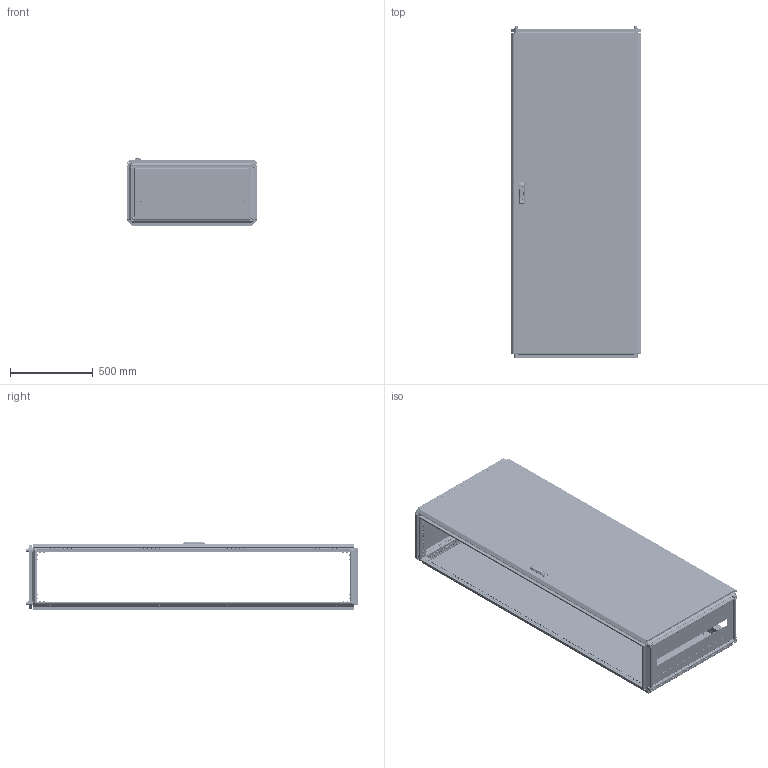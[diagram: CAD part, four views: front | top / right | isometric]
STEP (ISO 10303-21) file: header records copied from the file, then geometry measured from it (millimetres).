
FILE_DESCRIPTION (( 'STEP AP203' ), '1' );
FILE_NAME ('MA1.000.080420.10.00 AleSta2084 Øêàô AleSta 800õ400õ2000.STEP', '2024-08-23T08:27:40', ( '' ), ( '' ), 'SwSTEP 2.0', 'SolidWorks 2021', '' );
FILE_SCHEMA (( 'CONFIG_CONTROL_DESIGN' ));
Length unit declared in the file: millimetre
Products named in the file (50): MA1.000.080420.10.00 AleSta2084 Øêàô AleSta 800õ400õ2000; äåðæàòåëü_êðóãëîé_òÿãèRG002-RG1010-2-i-RG1010-3-.stp; MA1.101.060620.00.02 Ïðîôèëü ïîïåðå÷íûé ñâàðíîé_02 L=698 (˜=800) ; òÿãà_lg001-2.STEP_‚=2000; Âèíò ñàìîíàðåçàþùèé ñ ïîòàéíîé ãîëîâêîé Ì5x14 DIN 7500 M TORX, êëàññ ïðî÷íîñòè 8.8, îöèíêîâàííàÿ ñòàëü_Œ5å14; Ãàéêà ñàìîêîíòðÿùàÿñÿ ñ íåéëîíîâîé âñòàâêîé Ì6 DIN 985, êëàññ ïðî÷íîñòè 8, îöèíêîâàííàÿ ñòàëü_Œ6; Øïèëüêà Ì6õ12_˜¯¨«ìª  Œ6å12; Óïëîòíèòåëü ïàíåëè íèæíåé_ ‚=2000; Âèíò_ðåçüáîâûäàâëèâàþùèé_Ì5õ12_DIN 7500E_Œ5å12; Îñü ïåòëè 4õ52_‚¨­â A.M4x0,5x40 ƒŽ‘’ 11644-75; êðåïëåíèå_êðóãëîé_òÿãè_RG1020-1.stp; MA1.200.060620.10.00 AleSta-PR206  Ïàíåëü çàäíÿÿ, äëÿ øêàôîâ ALESTA, 2000 x 600_2000å800; Âèíò ñ âí. øåñòèãðàííèêîì M12 DIN912_•30; MA1.200.060620.31.00 Äâåðü ñïëîøíàÿ äëÿ øêàôîâ ALESTA ÂõØ 2000õ600_2000å800; MA1.200.060620.31.01 Ïîëîòíî äâåðè ñïëîøíîé 2000õ600_2000å800; Øïèëüêà Ì6õ12_˜¯¨«ìª  Œ6å20; MA1.200.060620.30.00 AleSta-D20M600 Äâåðü ñïëîøíàÿ äëÿ øêàôîâ ALESTA ÂõØ 2000õ600_2000å800; Øïèëüêà Ì6õ12_˜¯¨«ìª  Œ6å16; MA1.200.060620.11.00 Ïàíåëü çàäíÿÿ, äëÿ øêàôîâ AleSta, 2000x600_2000å800; MA1.200.060620.31.02 Ðåéêà íà äâåðü âåðòèêàëüíàÿ Â = 2000_‚ =2000; MA1.102.060620.00.01 Ïðîôèëü âåðòèêàëüíûé ñâàðíîé_04 L=1898 (‚=2000); Øàéáà ñòîïîðíàÿ ñ íàðóæíûìè çóáöàìè SCHNORR, òèï VS öèíêîâûå õëîïüÿ Ì6 O6,4 ART 88121_Œ6; MA1.101.060620.00.00 AleSta-RB66 Êîìïëåêò êðûøà è îñíîâàíèå_800å400; Âèíò_ðåçüáîâûäàâëèâàþùèé_Ì5õ12_DIN 7500E_00; Ïåòëÿ íà äâåðü ï-îáðàçíàÿ; MA1.101.060620.10.00 Êðûøà 600x600_800å400; MA1.200.060620.11.01 Ïîëîòíî çàäíåé ïàíåëè 2000õ600_2000å800; MA1.101.060620.10.01 Ïîëîòíî êðûøè 600õ600_800x400; 7380-2 ISO Âèíòû ñ ïîëóêðóãëîé ãîëîâêîé ñ ôëàíöåì ñ âíóòðåííèì øåñòèãðàííèêîì Ì4õ10; MA1.100.060620.00.01 Ñîåäèíèòåëü óãëîâîé_00; Íàâåñêà íà êîðïóñ ïîä êëåïêó; Áîëò øåñòèãðàííûé Ì5õ12 DIN 933, êëàññ ïðî÷íîñòè 8.8, îöèíêîâàííàÿ ñòàëü; MA1.101.060620.00.02 Ïðîôèëü ïîïåðå÷íûé ñâàðíîé_00 L=298 (˜=400); Ïðîáêà ïëàñòèêîâàÿ óíèâåðñàëüíàÿ ïîä îòâåðñòèå 4,5 ìì, ñåðèÿ ST, öâåò áåñöâåòíûé – ST4,5; MA1.102.060620.00.00 AleSta-VG2000 Ñòîéêè âåðòèêàëüíûå, Â=2000ìì  (4øò)_800å400; ﾘ琺矜 01.019 ﾃﾎﾑﾒ11371-78_12; MA1.200.060620.31.04 ðèãåëü çàìêà äâåðè; ﾇﾀﾊﾋﾅﾏﾊﾀ ﾃﾀﾅﾗﾍﾀﾟ ﾘﾅﾑﾒﾈﾃﾐﾀﾍﾍﾀﾟ ﾑ ﾓﾌﾅﾍﾜﾘﾅﾍﾍﾛﾌ ﾁﾎﾐﾒﾎﾌ M4 X 11 (0.5-2.5 ﾌﾌ) HEX U-S ﾖﾈﾍﾊ; Âèíò ñàìîíàðåçàþùèé ñ ïîòàéíîé ãîëîâêîé Ì5x14 DIN 7500 M TORX, êëàññ ïðî÷íîñòè 8.8, îöèíêîâàííàÿ ñòàëü_Œ5å12; MA1.200.060620.31.05 Óãëîâîé óïîð äâåðíîé òÿãè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
Assembly tree (337 placements, depth 4):
  MA1.000.080420.10.00 AleSta2084 Øêàô AleSta 800õ400õ2000
    MA1.101.060620.00.00 AleSta-RB66 Êîìïëåêò êðûøà è îñíîâàíèå_800å400
      MA1.101.060620.00.02 Ïðîôèëü ïîïåðå÷íûé ñâàðíîé_00 L=298 (˜=400)  x4
      MA1.101.060620.00.02 Ïðîôèëü ïîïåðå÷íûé ñâàðíîé_02 L=698 (˜=800)   x4
      MA1.101.060620.10.00 Êðûøà 600x600_800å400
        MA1.101.060620.10.01 Ïîëîòíî êðûøè 600õ600_800x400
        Øïèëüêà Ì6õ12_˜¯¨«ìª  Œ6å12  x4
        Óïëîòíèòåëü ïàíåëè íèæíåé_800å400
      MA1.101.060620.20.00 Íèæíÿÿ ïàíåëü 600õ600_800å400
        MA1.101.060620.20.01 Ïîëîòíî íèæíåé ïàíåëè 600õ600_800å400
        ﾇﾀﾊﾋﾅﾏﾊﾀ ﾃﾀﾅﾗﾍﾀﾟ ﾘﾅﾑﾒﾈﾃﾐﾀﾍﾍﾀﾟ ﾑ ﾓﾌﾅﾍﾜﾘﾅﾍﾍﾛﾌ ﾁﾎﾐﾒﾎﾌ M4 X 11 (0.5-2.5 ﾌﾌ) HEX U-S ﾖﾈﾍﾊ  x4
        MA1.101.060620.20.02 Çàêðûòèå íèæíåé ïàíåëè 600õ600_800å400  x2
        7380-2 ISO Âèíòû ñ ïîëóêðóãëîé ãîëîâêîé ñ ôëàíöåì ñ âíóòðåííèì øåñòèãðàííèêîì Ì4õ10  x4
      Âèíò_ðåçüáîâûäàâëèâàþùèé_Ì5õ12_DIN 7500E_Œ5å12  x8
      MA1.100.060620.00.01 Ñîåäèíèòåëü óãëîâîé_00  x8
      Âèíò ñ âí. øåñòèãðàííèêîì M12 DIN912_•30  x4
      Âèíò ðåçüáîâûäàâëèâàþùèé Ì6õ12 DIN 7500E_Œ6å10  x96
      ﾘ琺矜 01.019 ﾃﾎﾑﾒ11371-78_12  x4
      ﾘ琺矜 65ﾃ 019 ﾃﾎﾑﾒ 6402-70_12  x4
      Øàéáà ñòîïîðíàÿ ñ íàðóæíûìè çóáöàìè SCHNORR, òèï VS öèíêîâûå õëîïüÿ Ì6 O6,4 ART 88121_Œ6  x80
    MA1.102.060620.00.00 AleSta-VG2000 Ñòîéêè âåðòèêàëüíûå, Â=2000ìì  (4øò)_800å400
      MA1.102.060620.00.01 Ïðîôèëü âåðòèêàëüíûé ñâàðíîé_04 L=1898 (‚=2000)  x4
    MA1.200.060620.10.00 AleSta-PR206  Ïàíåëü çàäíÿÿ, äëÿ øêàôîâ ALESTA, 2000 x 600_2000å800
      MA1.200.060620.11.00 Ïàíåëü çàäíÿÿ, äëÿ øêàôîâ AleSta, 2000x600_2000å800
        MA1.200.060620.11.01 Ïîëîòíî çàäíåé ïàíåëè 2000õ600_2000å800
        Óïëîòíèòåëü ïàíåëè íèæíåé_ ‚=2000
        Øïèëüêà Ì6õ12_˜¯¨«ìª  Œ6å12  x4
      Âèíò ñàìîíàðåçàþùèé ñ ïîòàéíîé ãîëîâêîé Ì5x14 DIN 7500 M TORX, êëàññ ïðî÷íîñòè 8.8, îöèíêîâàííàÿ ñòàëü_Œ5å14  x8
    MA1.200.060620.30.00 AleSta-D20M600 Äâåðü ñïëîøíàÿ äëÿ øêàôîâ ALESTA ÂõØ 2000õ600_2000å800
      MA1.200.060620.31.00 Äâåðü ñïëîøíàÿ äëÿ øêàôîâ ALESTA ÂõØ 2000õ600_2000å800
        MA1.200.060620.31.01 Ïîëîòíî äâåðè ñïëîøíîé 2000õ600_2000å800
        Óïëîòíèòåëü ïàíåëè íèæíåé_ ‚=2000
        Øïèëüêà Ì6õ12_˜¯¨«ìª  Œ6å20  x16
        Øïèëüêà Ì6õ12_˜¯¨«ìª  Œ6å16  x4
        Ïåòëÿ íà äâåðü ï-îáðàçíàÿ  x4
      MA1.200.060620.31.03 Ðåéêà íà äâåðü ãîðèçîíòàëüíàÿ Ø = 600_˜=800  x2
      諘蜱齁罻 022 瀁錒瀔隮  x4
      MA1.200.060620.31.02 Ðåéêà íà äâåðü âåðòèêàëüíàÿ Â = 2000_‚ =2000  x2
      äåðæàòåëü_êðóãëîé_òÿãèRG002-RG1010-2-i-RG1010-3-.stp  x2
      òÿãà_lg001-2.STEP_‚=2000  x2
      êðåïëåíèå_êðóãëîé_òÿãè_RG1020-1.stp  x2
      MS463-2-3(1)
      Ãàéêà ñàìîêîíòðÿùàÿñÿ ñ íåéëîíîâîé âñòàâêîé Ì6 DIN 985, êëàññ ïðî÷íîñòè 8, îöèíêîâàííàÿ ñòàëü_Œ6  x16
      Ãàéêà ñàìîêîíòðÿùàÿñÿ ñ íåéëîíîâîé âñòàâêîé Ì6 DIN 985, êëàññ ïðî÷íîñòè 8, îöèíêîâàííàÿ ñòàëü_Œ5  x2
      Áîëò øåñòèãðàííûé Ì5õ12 DIN 933, êëàññ ïðî÷íîñòè 8.8, îöèíêîâàííàÿ ñòàëü  x2
      MA1.200.060620.31.04 ðèãåëü çàìêà äâåðè
      MA1.200.060620.31.05 Óãëîâîé óïîð äâåðíîé òÿãè  x2
      Âèíò_ðåçüáîâûäàâëèâàþùèé_Ì5õ12_DIN 7500E_00  x2
      Íàâåñêà íà êîðïóñ ïîä êëåïêó  x4
      Îñü ïåòëè 4õ52_‚¨­â A.M4x0,5x40 ƒŽ‘’ 11644-75  x4
      Âèíò ñàìîíàðåçàþùèé ñ ïîòàéíîé ãîëîâêîé Ì5x14 DIN 7500 M TORX, êëàññ ïðî÷íîñòè 8.8, îöèíêîâàííàÿ ñòàëü_Œ5å12  x8
  Ïðîáêà ïëàñòèêîâàÿ óíèâåðñàëüíàÿ ïîä îòâåðñòèå 4,5 ìì, ñåðèÿ ST, öâåò áåñöâåòíûé – ST4,5
Bounding box: 792 x 2010.9 x 416.8 mm (x, y, z)
Volume: 10091190.6 mm3; surface area: 13054344.8 mm2
Topology: 364 solids, 378 shells, 23851 faces, 61590 edges, 38568 vertices
Faces by surface type: plane 14249, cylinder 6909, bspline 921, cone 845, torus 829, sphere 98
Entity records: 250488 total; most frequent: CARTESIAN_POINT 80137, ORIENTED_EDGE 32594, DIRECTION 32080, EDGE_CURVE 16314, AXIS2_PLACEMENT_3D 11008, VERTEX_POINT 10173, LINE 10064, VECTOR 10064
